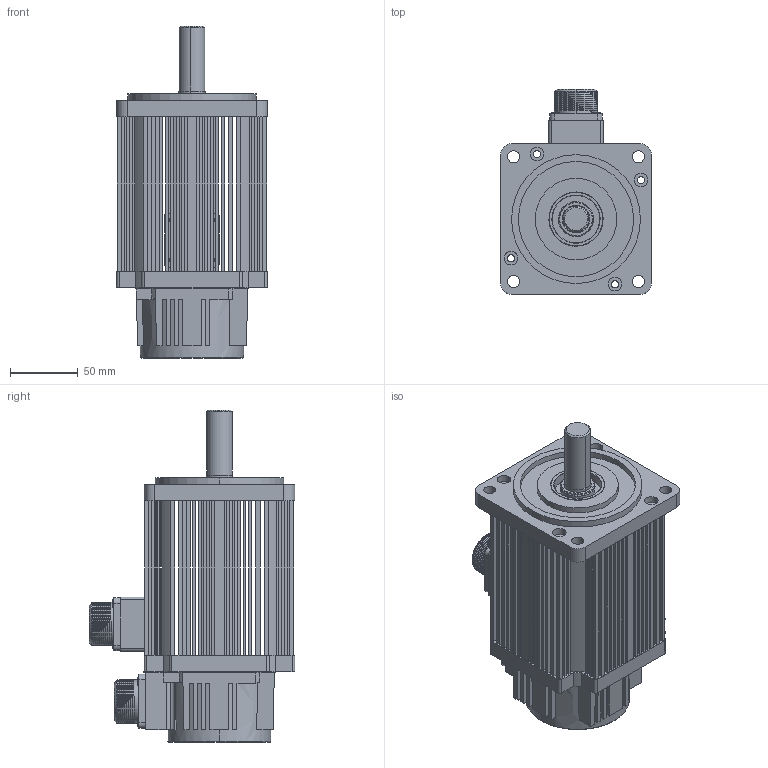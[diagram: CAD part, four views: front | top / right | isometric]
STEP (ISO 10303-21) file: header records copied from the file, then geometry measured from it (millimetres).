
FILE_DESCRIPTION (( 'STEP AP203' ), '1' );
FILE_NAME ('110ST-M04030.STEP', '2016-09-07T01:11:00', ( 'abc' ), ( 'Microsoft' ), 'SwSTEP 2.0', 'SolidWorks 2014', '' );
FILE_SCHEMA (( 'CONFIG_CONTROL_DESIGN' ));
Length unit declared in the file: millimetre
Products named in the file (1): 110ST-M04030
Bounding box: 111.2 x 151.6 x 245 mm (x, y, z)
Surface area: 181236.9 mm2 (no closed solid volume)
Topology: 0 solids, 63 shells, 670 faces, 2011 edges, 1422 vertices
Faces by surface type: plane 383, cylinder 238, sphere 25, torus 14, cone 8, bspline 2
Entity records: 25004 total; most frequent: CARTESIAN_POINT 7627, DIRECTION 3645, ORIENTED_EDGE 3129, EDGE_CURVE 1936, VERTEX_POINT 1372, LINE 1241, VECTOR 1241, AXIS2_PLACEMENT_3D 1202
